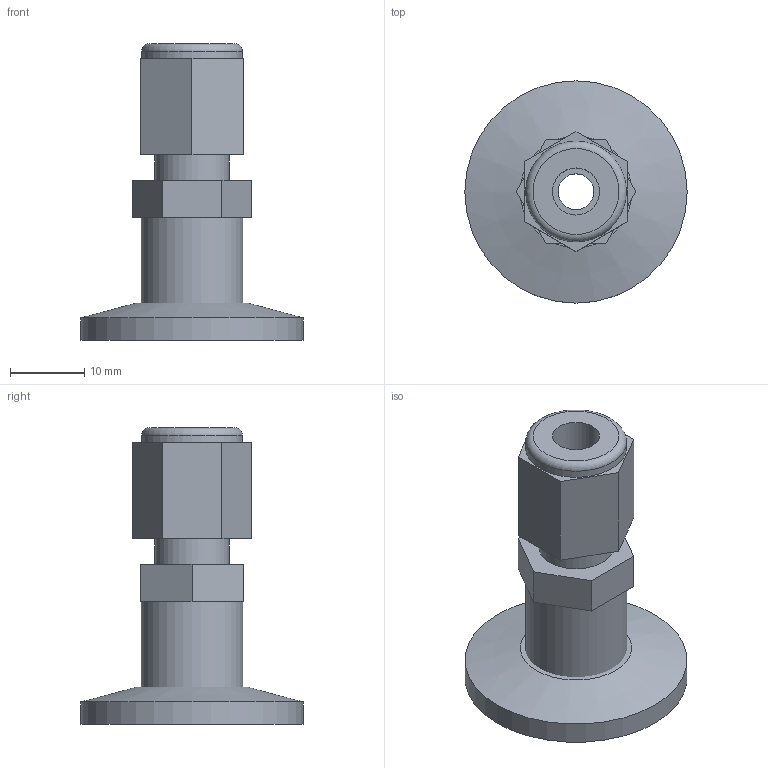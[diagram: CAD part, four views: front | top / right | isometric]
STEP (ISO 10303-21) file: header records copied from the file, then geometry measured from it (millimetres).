
FILE_DESCRIPTION( ( 'Unknown' ), '1' );
FILE_NAME( 'X:/Daten ( aktueller Bestand )/Projekte und Zeichnungen/Solid Edge/STP-Dateien/Adapter KF/1831-14.stp', 'Unknown', ( 'Unknown' ), ( 'Unknown' ), 'PSStep 14.0', 'Unknown', ' ' );
FILE_SCHEMA( ( 'AUTOMOTIVE_DESIGN { 1 0 10303 214 1 1 1 1 }' ) );
Length unit declared in the file: millimetre
Products named in the file (3): Assem1; 1821- 1-2; 1-4x1-4
Assembly tree (2 placements, depth 2):
  Assem1
    1821- 1-2
    1-4x1-4
Bounding box: 30 x 30 x 40 mm (x, y, z)
Volume: 6518.3 mm3; surface area: 4595.6 mm2
Topology: 2 solids, 2 shells, 34 faces, 68 edges, 45 vertices
Faces by surface type: plane 23, cylinder 9, cone 1, torus 1
Full cylindrical faces by diameter (mm): 4.82 x1, 6.35 x1, 7.1 x1, 10 x1, 12.7 x1, 13.6 x1, 13.7 x1, 17.2 x1, 30 x1
Entity records: 1154 total; most frequent: DIRECTION 150, CARTESIAN_POINT 137, ORIENTED_EDGE 112, AXIS2_PLACEMENT_3D 57, EDGE_LOOP 56, EDGE_CURVE 56, FACE_OUTER_BOUND 44, VERTEX_POINT 44
